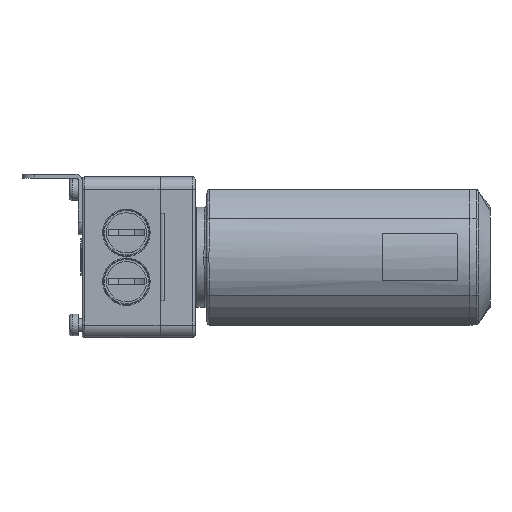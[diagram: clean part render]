
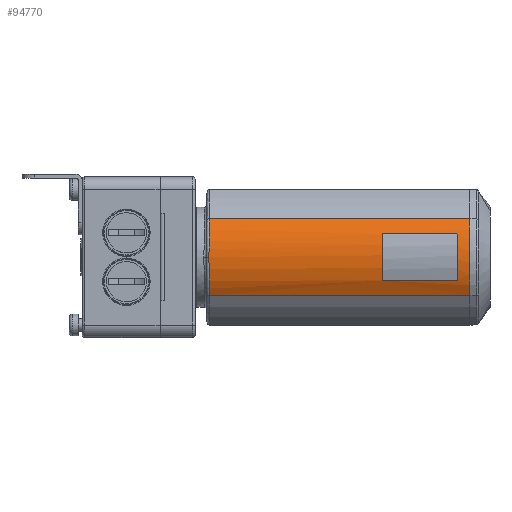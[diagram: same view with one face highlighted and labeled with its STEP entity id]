
A CAD part, left-side view. The second image highlights one B-rep face of the part: STEP entity #94770.
In plain terms, the highlighted cylindrical face has radius 29 mm (diameter 58 mm), a partial arc.
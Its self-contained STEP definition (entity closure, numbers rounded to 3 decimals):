
#2998=B_SPLINE_CURVE_WITH_KNOTS('',3,(#142906,#142907,#142908,#142909,#142910,
#142911,#142912),.UNSPECIFIED.,.F.,.F.,(4,1,1,1,4),(0.,0.25,0.5,0.75,1.),
 .UNSPECIFIED.);
#3000=B_SPLINE_CURVE_WITH_KNOTS('',3,(#142939,#142940,#142941,#142942),
 .UNSPECIFIED.,.F.,.F.,(4,4),(0.,1.),.UNSPECIFIED.);
#3001=B_SPLINE_CURVE_WITH_KNOTS('',3,(#142944,#142945,#142946,#142947),
 .UNSPECIFIED.,.F.,.F.,(4,4),(0.,1.),.UNSPECIFIED.);
#3004=B_SPLINE_CURVE_WITH_KNOTS('',3,(#142990,#142991,#142992,#142993),
 .UNSPECIFIED.,.F.,.F.,(4,4),(0.,1.),.UNSPECIFIED.);
#3005=B_SPLINE_CURVE_WITH_KNOTS('',3,(#142995,#142996,#142997,#142998),
 .UNSPECIFIED.,.F.,.F.,(4,4),(0.,1.),.UNSPECIFIED.);
#3007=B_SPLINE_CURVE_WITH_KNOTS('',3,(#143005,#143006,#143007,#143008,#143009,
#143010,#143011),.UNSPECIFIED.,.F.,.F.,(4,1,1,1,4),(0.,0.25,0.5,0.75,1.),
 .UNSPECIFIED.);
#3009=B_SPLINE_CURVE_WITH_KNOTS('',3,(#143038,#143039,#143040,#143041),
 .UNSPECIFIED.,.F.,.F.,(4,4),(0.,1.),.UNSPECIFIED.);
#3010=B_SPLINE_CURVE_WITH_KNOTS('',3,(#143043,#143044,#143045,#143046),
 .UNSPECIFIED.,.F.,.F.,(4,4),(0.,1.),.UNSPECIFIED.);
#3013=B_SPLINE_CURVE_WITH_KNOTS('',3,(#143089,#143090,#143091,#143092),
 .UNSPECIFIED.,.F.,.F.,(4,4),(0.,1.),.UNSPECIFIED.);
#3014=B_SPLINE_CURVE_WITH_KNOTS('',3,(#143094,#143095,#143096,#143097),
 .UNSPECIFIED.,.F.,.F.,(4,4),(0.,1.),.UNSPECIFIED.);
#9868=LINE('',#142954,#15018);
#9869=LINE('',#143053,#15019);
#10018=LINE('',#143621,#15168);
#10019=LINE('',#143623,#15169);
#15018=VECTOR('',#114184,1000.);
#15019=VECTOR('',#114189,1000.);
#15168=VECTOR('',#114736,1000.);
#15169=VECTOR('',#114737,1000.);
#16015=ELLIPSE('',#99845,29.001,29.);
#16016=ELLIPSE('',#99846,29.001,29.);
#32330=ORIENTED_EDGE('',*,*,#44643,.T.);
#32331=ORIENTED_EDGE('',*,*,#44409,.T.);
#32332=ORIENTED_EDGE('',*,*,#44408,.T.);
#32333=ORIENTED_EDGE('',*,*,#44644,.F.);
#32334=ORIENTED_EDGE('',*,*,#44645,.T.);
#32335=ORIENTED_EDGE('',*,*,#44405,.F.);
#32336=ORIENTED_EDGE('',*,*,#44404,.T.);
#32337=ORIENTED_EDGE('',*,*,#44402,.T.);
#32338=ORIENTED_EDGE('',*,*,#44400,.T.);
#32339=ORIENTED_EDGE('',*,*,#44399,.F.);
#32340=ORIENTED_EDGE('',*,*,#44397,.F.);
#32341=ORIENTED_EDGE('',*,*,#44395,.F.);
#32342=ORIENTED_EDGE('',*,*,#44394,.T.);
#32343=ORIENTED_EDGE('',*,*,#44392,.T.);
#32344=ORIENTED_EDGE('',*,*,#44390,.T.);
#32345=ORIENTED_EDGE('',*,*,#44389,.F.);
#32346=ORIENTED_EDGE('',*,*,#44387,.F.);
#44387=EDGE_CURVE('',#51970,#51971,#2998,.F.);
#44389=EDGE_CURVE('',#51971,#51972,#3000,.T.);
#44390=EDGE_CURVE('',#51973,#51972,#3001,.T.);
#44392=EDGE_CURVE('',#51974,#51973,#9868,.F.);
#44394=EDGE_CURVE('',#51975,#51974,#3004,.T.);
#44395=EDGE_CURVE('',#51975,#51976,#3005,.T.);
#44397=EDGE_CURVE('',#51976,#51977,#3007,.F.);
#44399=EDGE_CURVE('',#51977,#51978,#3009,.T.);
#44400=EDGE_CURVE('',#51979,#51978,#3010,.T.);
#44402=EDGE_CURVE('',#51980,#51979,#9869,.T.);
#44404=EDGE_CURVE('',#51981,#51980,#3013,.T.);
#44405=EDGE_CURVE('',#51981,#51970,#3014,.T.);
#44408=EDGE_CURVE('',#51982,#51983,#16015,.T.);
#44409=EDGE_CURVE('',#51984,#51982,#16016,.T.);
#44643=EDGE_CURVE('',#52105,#51984,#10018,.T.);
#44644=EDGE_CURVE('',#52106,#51983,#10019,.T.);
#44645=EDGE_CURVE('',#52106,#52105,#54884,.T.);
#51970=VERTEX_POINT('',#142905);
#51971=VERTEX_POINT('',#142913);
#51972=VERTEX_POINT('',#142943);
#51973=VERTEX_POINT('',#142948);
#51974=VERTEX_POINT('',#142955);
#51975=VERTEX_POINT('',#142994);
#51976=VERTEX_POINT('',#142999);
#51977=VERTEX_POINT('',#143012);
#51978=VERTEX_POINT('',#143042);
#51979=VERTEX_POINT('',#143047);
#51980=VERTEX_POINT('',#143054);
#51981=VERTEX_POINT('',#143093);
#51982=VERTEX_POINT('',#143115);
#51983=VERTEX_POINT('',#143117);
#51984=VERTEX_POINT('',#143132);
#52105=VERTEX_POINT('',#143622);
#52106=VERTEX_POINT('',#143624);
#54884=CIRCLE('',#100043,29.);
#58862=EDGE_LOOP('',(#32330,#32331,#32332,#32333,#32334));
#58863=EDGE_LOOP('',(#32335,#32336,#32337,#32338,#32339,#32340,#32341,#32342,
#32343,#32344,#32345,#32346));
#63181=FACE_BOUND('',#58862,.T.);
#63182=FACE_BOUND('',#58863,.T.);
#64768=CYLINDRICAL_SURFACE('',#100042,29.);
#94770=ADVANCED_FACE('',(#63181,#63182),#64768,.T.);
#99845=AXIS2_PLACEMENT_3D('',#143118,#114192,#114193);
#99846=AXIS2_PLACEMENT_3D('',#143131,#114194,#114195);
#100042=AXIS2_PLACEMENT_3D('',#143620,#114734,#114735);
#100043=AXIS2_PLACEMENT_3D('',#143625,#114738,#114739);
#114184=DIRECTION('',(0.,1.,0.));
#114189=DIRECTION('',(0.,1.,0.));
#114192=DIRECTION('',(0.,-1.,0.008));
#114193=DIRECTION('',(0.,0.008,1.));
#114194=DIRECTION('',(0.,-1.,-0.008));
#114195=DIRECTION('',(0.,0.008,-1.));
#114734=DIRECTION('',(0.,1.,0.));
#114735=DIRECTION('',(0.,0.,1.));
#114736=DIRECTION('',(0.,1.,0.));
#114737=DIRECTION('',(0.,1.,0.));
#114738=DIRECTION('',(0.,1.,0.));
#114739=DIRECTION('',(0.,0.,-1.));
#142905=CARTESIAN_POINT('',(-75.553,-118.5,-9.046));
#142906=CARTESIAN_POINT('',(-75.553,-118.5,9.046));
#142907=CARTESIAN_POINT('',(-76.035,-118.5,7.577));
#142908=CARTESIAN_POINT('',(-76.759,-118.5,4.606));
#142909=CARTESIAN_POINT('',(-77.121,-118.5,0.));
#142910=CARTESIAN_POINT('',(-76.759,-118.5,-4.605));
#142911=CARTESIAN_POINT('',(-76.035,-118.5,-7.577));
#142912=CARTESIAN_POINT('',(-75.553,-118.5,-9.046));
#142913=CARTESIAN_POINT('',(-75.553,-118.5,9.046));
#142939=CARTESIAN_POINT('',(-75.553,-118.5,9.046));
#142940=CARTESIAN_POINT('',(-75.495,-118.494,9.223));
#142941=CARTESIAN_POINT('',(-75.46,-118.384,9.325));
#142942=CARTESIAN_POINT('',(-75.458,-118.2,9.331));
#142943=CARTESIAN_POINT('',(-75.458,-118.2,9.331));
#142944=CARTESIAN_POINT('',(-75.442,-116.677,9.378));
#142945=CARTESIAN_POINT('',(-75.447,-117.184,9.363));
#142946=CARTESIAN_POINT('',(-75.452,-117.692,9.347));
#142947=CARTESIAN_POINT('',(-75.458,-118.2,9.331));
#142948=CARTESIAN_POINT('',(-75.442,-116.677,9.378));
#142954=CARTESIAN_POINT('',(-75.442,-123.5,9.378));
#142955=CARTESIAN_POINT('',(-75.442,-90.324,9.378));
#142990=CARTESIAN_POINT('',(-75.458,-88.8,9.331));
#142991=CARTESIAN_POINT('',(-75.452,-89.308,9.347));
#142992=CARTESIAN_POINT('',(-75.447,-89.816,9.363));
#142993=CARTESIAN_POINT('',(-75.442,-90.324,9.378));
#142994=CARTESIAN_POINT('',(-75.458,-88.8,9.331));
#142995=CARTESIAN_POINT('',(-75.458,-88.8,9.331));
#142996=CARTESIAN_POINT('',(-75.46,-88.614,9.325));
#142997=CARTESIAN_POINT('',(-75.496,-88.506,9.221));
#142998=CARTESIAN_POINT('',(-75.553,-88.5,9.046));
#142999=CARTESIAN_POINT('',(-75.553,-88.5,9.046));
#143005=CARTESIAN_POINT('',(-75.553,-88.5,-9.046));
#143006=CARTESIAN_POINT('',(-76.035,-88.5,-7.577));
#143007=CARTESIAN_POINT('',(-76.759,-88.5,-4.606));
#143008=CARTESIAN_POINT('',(-77.121,-88.5,0.));
#143009=CARTESIAN_POINT('',(-76.759,-88.5,4.605));
#143010=CARTESIAN_POINT('',(-76.035,-88.5,7.577));
#143011=CARTESIAN_POINT('',(-75.553,-88.5,9.046));
#143012=CARTESIAN_POINT('',(-75.553,-88.5,-9.046));
#143038=CARTESIAN_POINT('',(-75.553,-88.5,-9.046));
#143039=CARTESIAN_POINT('',(-75.495,-88.506,-9.223));
#143040=CARTESIAN_POINT('',(-75.46,-88.616,-9.325));
#143041=CARTESIAN_POINT('',(-75.458,-88.8,-9.331));
#143042=CARTESIAN_POINT('',(-75.458,-88.8,-9.331));
#143043=CARTESIAN_POINT('',(-75.442,-90.323,-9.378));
#143044=CARTESIAN_POINT('',(-75.447,-89.816,-9.363));
#143045=CARTESIAN_POINT('',(-75.452,-89.308,-9.347));
#143046=CARTESIAN_POINT('',(-75.458,-88.8,-9.331));
#143047=CARTESIAN_POINT('',(-75.442,-90.323,-9.378));
#143053=CARTESIAN_POINT('',(-75.442,-123.5,-9.378));
#143054=CARTESIAN_POINT('',(-75.442,-116.676,-9.378));
#143089=CARTESIAN_POINT('',(-75.458,-118.2,-9.331));
#143090=CARTESIAN_POINT('',(-75.452,-117.692,-9.347));
#143091=CARTESIAN_POINT('',(-75.447,-117.184,-9.363));
#143092=CARTESIAN_POINT('',(-75.442,-116.676,-9.378));
#143093=CARTESIAN_POINT('',(-75.458,-118.2,-9.331));
#143094=CARTESIAN_POINT('',(-75.458,-118.2,-9.331));
#143095=CARTESIAN_POINT('',(-75.46,-118.386,-9.325));
#143096=CARTESIAN_POINT('',(-75.496,-118.494,-9.221));
#143097=CARTESIAN_POINT('',(-75.553,-118.5,-9.046));
#143115=CARTESIAN_POINT('',(-77.,-19.5,0.));
#143117=CARTESIAN_POINT('',(-72.622,-19.629,-15.323));
#143118=CARTESIAN_POINT('',(-48.,-19.5,0.));
#143131=CARTESIAN_POINT('',(-48.,-19.5,0.));
#143132=CARTESIAN_POINT('',(-72.622,-19.629,15.323));
#143620=CARTESIAN_POINT('',(-48.,-123.5,0.));
#143621=CARTESIAN_POINT('',(-72.622,-123.5,15.323));
#143622=CARTESIAN_POINT('',(-72.622,-123.5,15.323));
#143623=CARTESIAN_POINT('',(-72.622,-123.5,-15.323));
#143624=CARTESIAN_POINT('',(-72.622,-123.5,-15.323));
#143625=CARTESIAN_POINT('',(-48.,-123.5,0.));
